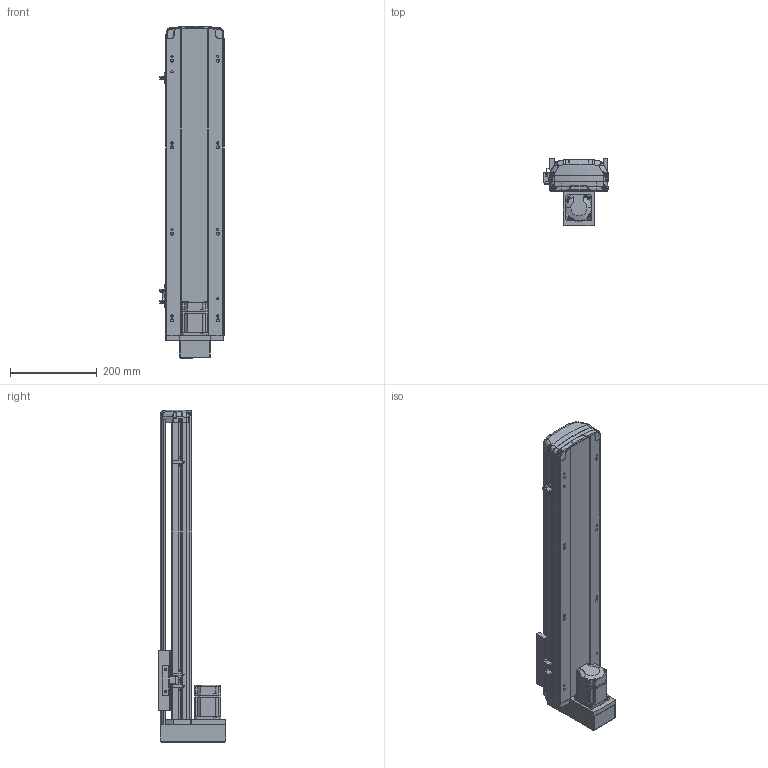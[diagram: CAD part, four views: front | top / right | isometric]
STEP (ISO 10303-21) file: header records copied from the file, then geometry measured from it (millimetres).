
FILE_DESCRIPTION (( 'STEP AP214' ), '1' );
FILE_NAME ('RTH14-XX-500-M-M20-C4.STEP', '2025-10-25T02:49:01', ( 'Microsoft' ), ( 'Microsoft' ), 'SwSTEP 2.0', 'SolidWorks 2018', '' );
FILE_SCHEMA (( 'AUTOMOTIVE_DESIGN' ));
Length unit declared in the file: millimetre
Products named in the file (10): N_RTH13-L-012感应片（外置）^RTH14-XX-XX-M-M20-C4; N_RTH14-M-007P奻裔^RTH14-XX-XX-M-M20-C4; N_RTH13-M-008萇儂啣狟殏^RTH14-XX-XX-M-M20-C4; N_RTH14-M-011P菁釱^RTH14-XX-XX-M-M20-C4; N_RTH14-GY-001P^RTH14-XX-XX-M-M20-C4; N_RTH13-M-018裔赽^RTH14-XX-XX-M-M20-C4; N_RTH14-R-004-SFSR16賑釱^RTH14-XX-XX-M-M20-C4; N_MSMD022P1AA_200W^RTH14-XX-XX-M-M20-C4; RTH14-XX-500-M-M20-C4; N_OMRON EE-SX672 传感器^RTH14-XX-XX-M-M20-C4
Assembly tree (11 placements, depth 2):
  RTH14-XX-500-M-M20-C4
    N_RTH14-M-011P菁釱^RTH14-XX-XX-M-M20-C4
    N_RTH14-M-007P奻裔^RTH14-XX-XX-M-M20-C4
    N_MSMD022P1AA_200W^RTH14-XX-XX-M-M20-C4
    N_RTH13-M-008萇儂啣狟殏^RTH14-XX-XX-M-M20-C4
    N_RTH13-M-018裔赽^RTH14-XX-XX-M-M20-C4
    N_RTH13-L-012感应片（外置）^RTH14-XX-XX-M-M20-C4
    N_OMRON EE-SX672 传感器^RTH14-XX-XX-M-M20-C4  x3
    N_RTH14-R-004-SFSR16賑釱^RTH14-XX-XX-M-M20-C4
    N_RTH14-GY-001P^RTH14-XX-XX-M-M20-C4
Bounding box: 148.5 x 156.5 x 767.37 mm (x, y, z)
Volume: 3545092.8 mm3; surface area: 821284.7 mm2
Topology: 11 solids, 11 shells, 1861 faces, 5198 edges, 3404 vertices
Faces by surface type: plane 993, cylinder 474, bspline 345, cone 45, torus 4
Entity records: 56664 total; most frequent: CARTESIAN_POINT 22905, ORIENTED_EDGE 7464, DIRECTION 5961, EDGE_CURVE 3732, VERTEX_POINT 2440, VECTOR 2159, LINE 2159, AXIS2_PLACEMENT_3D 1901
